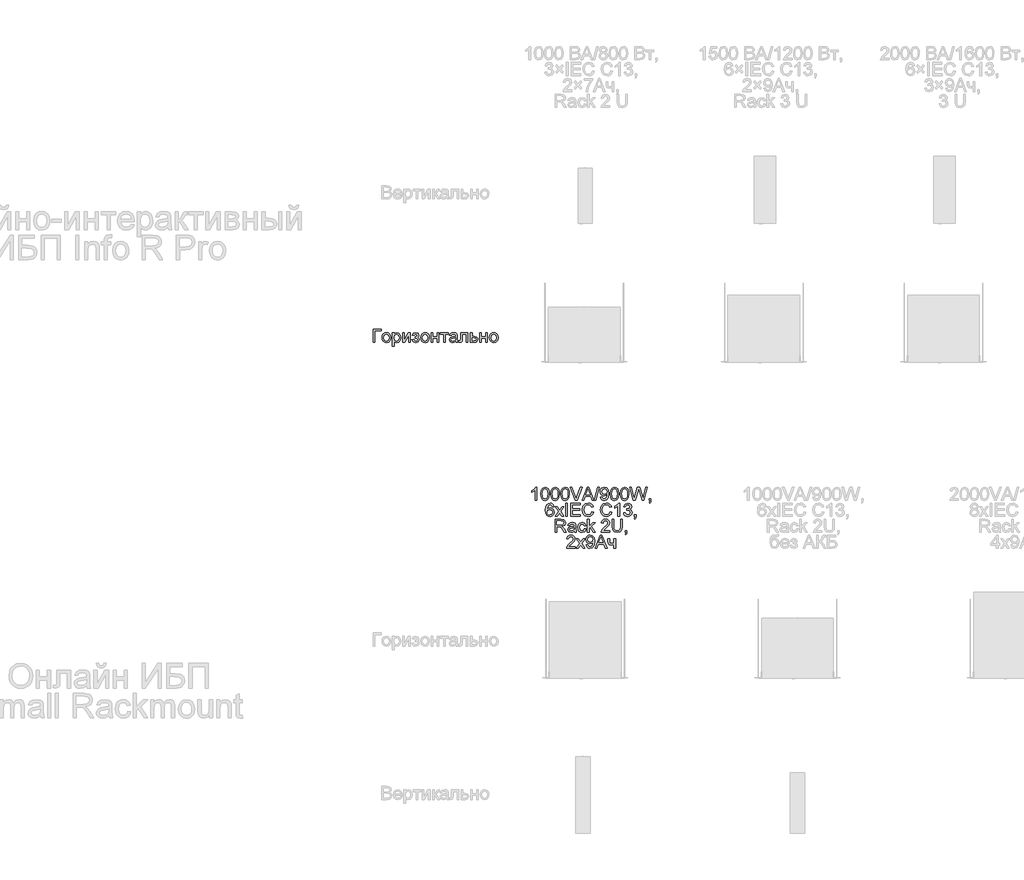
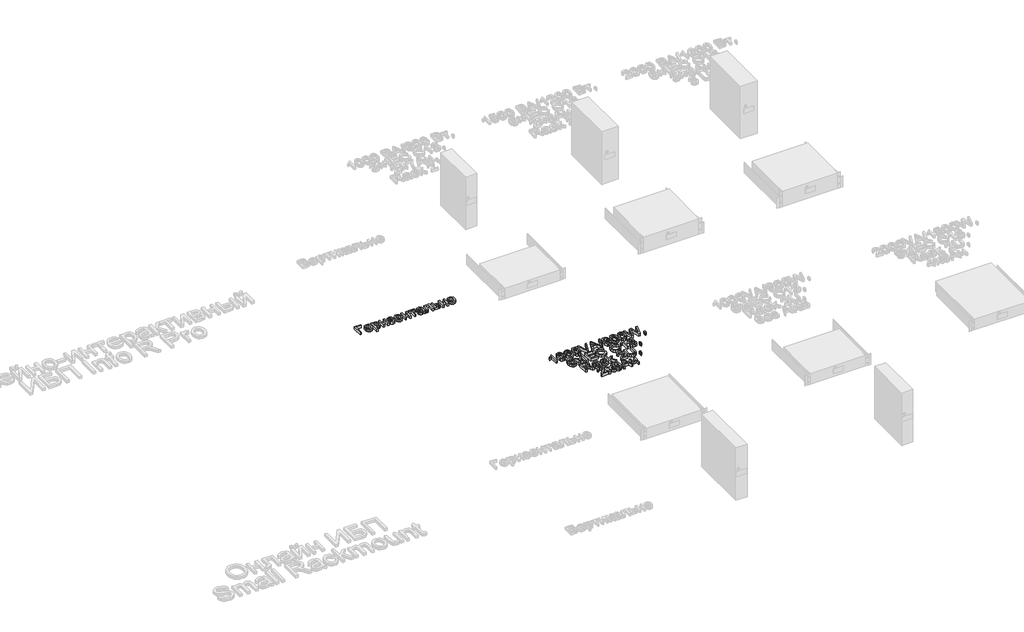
# One storey, part 65 of 74: 2 proxies.
"""IFC4 building model written with IfcOpenShell, lengths in millimetres."""

from ifc_helpers import new_model, si_unit, origin, origin_with_axes, place, context, project, spatial, polyline, outline, extrude, element, save

model = new_model("IFC4")

# Units and contexts
model_context = context("Model", 3, world=origin())
ifc_project = project(units=[si_unit("LENGTHUNIT", "METRE", prefix="MILLI")], contexts=[model_context])

# Site, building, storey
site = spatial("IfcSite", under=ifc_project)
building = spatial("IfcBuilding", under=site)
storey = spatial("IfcBuildingStorey", under=building, Name="Этаж 01", Elevation=0.0)

# Proxies
placement = place(None, origin())
element("IfcBuildingElementProxy", 1, Name="80 мм Arial", ObjectType="80 мм Arial", at=placement, inside=storey, context=model_context, shape_type="SweptSolid", body=[
    extrude(outline(polyline([(52.7313094, 3310.3120859), (102.9594644, 3310.3120859), (102.9594644, 3300.2664549), (62.7769404, 3300.2664549), (62.7769404, 3229.9470378), (52.7313094, 3229.9470378), (52.7313094, 3310.3120859)])), origin_with_axes(), (0.0, 0.0, 1.0), 20.0),
    extrude(outline(polyline([(107.9822799, 3259.4560789), (110.1552363, 3273.6857545), (116.6741052, 3283.6872397), (124.7282684, 3288.5874279), (134.3716817, 3290.2208239), (144.9249899, 3288.2318086), (153.3543927, 3282.2647626), (158.8799802, 3272.790575), (160.7218428, 3260.2801346), (157.4648608, 3242.4059747), (147.9784105, 3232.2916724), (134.3716817, 3228.6913339), (123.6908411, 3230.6729916), (115.2712485, 3236.6179647), (109.8045221, 3246.2908086), (107.9822799, 3259.4560789)]), holes=[polyline([(118.027911, 3259.4756993), (122.6779394, 3243.9069333), (134.3716817, 3238.736965), (146.0261833, 3243.9363638), (150.6762117, 3259.7896253), (145.9967528, 3275.0052246), (134.3716817, 3280.1751929), (122.6779394, 3275.024845), (118.027911, 3259.4756993)])]), origin_with_axes(), (0.0, 0.0, 1.0), 20.0),
    extrude(outline(polyline([(172.0231777, 3207.344368), (172.0231777, 3288.96512), (182.0688087, 3288.96512), (182.0688087, 3279.1156928), (189.0144207, 3287.4445411), (198.3929591, 3290.2208239), (211.1265812, 3286.33599), (219.4456194, 3275.3878219), (222.2513327, 3259.9073475), (219.0826425, 3243.632248), (209.8806875, 3232.5467373), (197.1764959, 3228.6913339), (188.4356197, 3231.271413), (182.0688087, 3237.7951871), (182.0688087, 3207.344368), (172.0231777, 3207.344368)]), holes=[polyline([(182.0688087, 3258.98519), (186.4147213, 3243.681299), (196.9606718, 3238.736965), (207.7224465, 3243.8578823), (212.2057017, 3259.7307642), (207.8303585, 3275.0738959), (197.3726997, 3280.1751929), (186.7090269, 3274.7501597), (182.0688087, 3258.98519)])]), origin_with_axes(), (0.0, 0.0, 1.0), 20.0),
    extrude(outline(polyline([(233.5526676, 3288.96512), (243.5982986, 3288.96512), (243.5982986, 3243.9559842), (268.280728, 3288.96512), (281.2694149, 3288.96512), (281.2694149, 3229.9470378), (271.2237839, 3229.9470378), (271.2237839, 3274.6814884), (246.6983176, 3229.9470378), (233.5526676, 3229.9470378), (233.5526676, 3288.96512)])), origin_with_axes(), (0.0, 0.0, 1.0), 20.0),
    extrude(outline(polyline([(310.1506041, 3256.3168192), (310.1506041, 3266.3624503), (318.0772348, 3266.7548577), (322.0797909, 3268.8444274), (323.9633468, 3273.2099605), (321.4421288, 3278.2818269), (314.9379751, 3280.1751929), (308.2179974, 3278.2916371), (303.8720847, 3272.6409696), (292.5707498, 3273.8966735), (300.1245935, 3286.1397863), (313.9177157, 3290.2208239), (328.6722363, 3285.2470593), (334.0089778, 3273.3669234), (332.1107067, 3267.1276448), (326.4158934, 3262.301033), (333.0573897, 3256.042134), (335.2646816, 3247.0363828), (333.8642775, 3239.6419547), (329.6630651, 3233.7828208), (313.9961972, 3228.6913339), (298.5451534, 3233.4002235), (291.315046, 3247.5268921), (302.6163809, 3248.782596), (307.148687, 3241.366095), (314.9575955, 3238.736965), (322.295615, 3241.2581829), (325.2190506, 3247.7034755), (323.4041661, 3252.9813558), (319.5389526, 3255.8066895), (312.1126414, 3256.3756804), (310.1506041, 3256.3168192)])), origin_with_axes(), (0.0, 0.0, 1.0), 20.0),
    extrude(outline(polyline([(345.3103127, 3259.4560789), (347.483269, 3273.6857545), (354.0021379, 3283.6872397), (362.0563011, 3288.5874279), (371.6997145, 3290.2208239), (382.2530226, 3288.2318086), (390.6824254, 3282.2647626), (396.208013, 3272.790575), (398.0498755, 3260.2801346), (394.7928936, 3242.4059747), (385.3064432, 3232.2916724), (371.6997145, 3228.6913339), (361.0188739, 3230.6729916), (352.5992813, 3236.6179647), (347.1325548, 3246.2908086), (345.3103127, 3259.4560789)]), holes=[polyline([(355.3559437, 3259.4756993), (360.0059721, 3243.9069333), (371.6997145, 3238.736965), (383.3542161, 3243.9363638), (388.0042445, 3259.7896253), (383.3247855, 3275.0052246), (371.6997145, 3280.1751929), (360.0059721, 3275.024845), (355.3559437, 3259.4756993)])]), origin_with_axes(), (0.0, 0.0, 1.0), 20.0),
    extrude(outline(polyline([(409.3512104, 3288.96512), (419.3968414, 3288.96512), (419.3968414, 3266.3624503), (445.7666228, 3266.3624503), (445.7666228, 3288.96512), (455.8122538, 3288.96512), (455.8122538, 3229.9470378), (445.7666228, 3229.9470378), (445.7666228, 3256.3168192), (419.3968414, 3256.3168192), (419.3968414, 3229.9470378), (409.3512104, 3229.9470378), (409.3512104, 3288.96512)])), origin_with_axes(), (0.0, 0.0, 1.0), 20.0),
    extrude(outline(polyline([(465.8578848, 3288.96512), (513.5746322, 3288.96512), (513.5746322, 3278.919489), (494.739074, 3278.919489), (494.739074, 3229.9470378), (484.693443, 3229.9470378), (484.693443, 3278.919489), (465.8578848, 3278.919489), (465.8578848, 3288.96512)])), origin_with_axes(), (0.0, 0.0, 1.0), 20.0),
    extrude(outline(polyline([(560.0356756, 3237.4812611), (550.2941604, 3230.6729916), (539.5323857, 3228.6913339), (524.9446384, 3233.4590846), (519.8531515, 3245.6433363), (521.7759481, 3253.5895874), (526.8281942, 3259.3579771), (533.8620979, 3262.6541997), (542.5539232, 3264.1649685), (559.9768145, 3267.6181541), (560.0356756, 3269.8548767), (557.269203, 3277.2713777), (546.1640718, 3280.1751929), (536.0007186, 3278.2425862), (531.1544864, 3271.3852658), (521.1088554, 3272.6409696), (525.4547681, 3282.4511562), (534.2054545, 3288.1999255), (547.4590165, 3290.2208239), (559.633458, 3288.43537), (566.5103987, 3283.9521147), (569.5907973, 3277.1340351), (570.0813066, 3268.3441079), (570.0813066, 3255.8459303), (570.5914363, 3238.3936084), (572.5927144, 3229.9470378), (562.5470834, 3229.9470378), (560.0356756, 3237.4812611)]), holes=[polyline([(560.0356756, 3257.5725231), (543.8292474, 3254.4921245), (535.1864731, 3252.8636336), (531.2722087, 3250.2148832), (529.8987826, 3246.3496697), (532.8908895, 3240.9148264), (541.6710064, 3238.736965), (551.8343597, 3241.1404607), (558.3875643, 3246.9579013), (559.9768145, 3254.727569), (560.0356756, 3257.5725231)])]), origin_with_axes(), (0.0, 0.0, 1.0), 20.0),
    extrude(outline(polyline([(588.9168648, 3288.96512), (634.1222043, 3288.96512), (634.1222043, 3230.0058989), (624.0765733, 3230.0058989), (624.0765733, 3278.919489), (598.9624958, 3278.919489), (598.9624958, 3250.7642537), (598.2855929, 3237.7755667), (594.5675322, 3232.2916724), (585.7776051, 3229.9470378), (577.6155299, 3230.4571675), (577.6155299, 3239.9926688), (582.1085953, 3239.9926688), (586.6507117, 3240.6107106), (588.4655962, 3242.5727479), (588.9168648, 3251.3332445), (588.9168648, 3288.96512)])), origin_with_axes(), (0.0, 0.0, 1.0), 20.0),
    extrude(outline(polyline([(649.1906509, 3288.96512), (659.2362819, 3288.96512), (659.2362819, 3267.6181541), (670.812302, 3267.6181541), (688.274434, 3262.5855284), (692.8656013, 3256.5988621), (694.3959904, 3248.7041145), (689.1867814, 3235.4505525), (682.4153001, 3231.3229165), (672.5192745, 3229.9470378), (649.1906509, 3229.9470378), (649.1906509, 3288.96512)]), holes=[polyline([(659.2362819, 3239.9926688), (668.6148202, 3239.9926688), (680.7304006, 3242.1018589), (684.3503594, 3248.6844941), (681.6721785, 3254.8649116), (669.811663, 3257.5725231), (659.2362819, 3257.5725231), (659.2362819, 3239.9926688)])]), origin_with_axes(), (0.0, 0.0, 1.0), 20.0),
    extrude(outline(polyline([(706.9530292, 3288.96512), (716.9986602, 3288.96512), (716.9986602, 3266.3624503), (743.3684416, 3266.3624503), (743.3684416, 3288.96512), (753.4140726, 3288.96512), (753.4140726, 3229.9470378), (743.3684416, 3229.9470378), (743.3684416, 3256.3168192), (716.9986602, 3256.3168192), (716.9986602, 3229.9470378), (706.9530292, 3229.9470378), (706.9530292, 3288.96512)])), origin_with_axes(), (0.0, 0.0, 1.0), 20.0),
    extrude(outline(polyline([(765.9711114, 3259.4560789), (768.1440677, 3273.6857545), (774.6629367, 3283.6872397), (782.7170998, 3288.5874279), (792.3605132, 3290.2208239), (802.9138214, 3288.2318086), (811.3432242, 3282.2647626), (816.8688117, 3272.790575), (818.7106742, 3260.2801346), (815.4536923, 3242.4059747), (805.9672419, 3232.2916724), (792.3605132, 3228.6913339), (781.6796726, 3230.6729916), (773.26008, 3236.6179647), (767.7933536, 3246.2908086), (765.9711114, 3259.4560789)]), holes=[polyline([(776.0167424, 3259.4756993), (780.6667708, 3243.9069333), (792.3605132, 3238.736965), (804.0150148, 3243.9363638), (808.6650432, 3259.7896253), (803.9855843, 3275.0052246), (792.3605132, 3280.1751929), (780.6667708, 3275.024845), (776.0167424, 3259.4756993)])]), origin_with_axes(), (0.0, 0.0, 1.0), 20.0),
])
element("IfcBuildingElementProxy", 2, Name="80 мм Arial", ObjectType="80 мм Arial", at=placement, inside=storey, context=model_context, shape_type="SweptSolid", body=[
    extrude(outline(polyline([(1056.0651374, 2262.3651415), (1046.0195064, 2262.3651415), (1046.0195064, 2324.9933724), (1036.5036255, 2318.2145335), (1025.9282444, 2313.142667), (1025.9282444, 2322.6389276), (1040.6533344, 2332.0370863), (1049.5904143, 2342.7301896), (1056.0651374, 2342.7301896), (1056.0651374, 2262.3651415)])), origin_with_axes(), (0.0, 0.0, 1.0), 20.0),
    extrude(outline(polyline([(1079.9235111, 2301.9001933), (1082.8763772, 2325.0228029), (1091.646684, 2338.3548465), (1106.2932925, 2342.7301896), (1118.0262756, 2340.1403004), (1126.1294897, 2332.6747484), (1130.8383792, 2320.7848024), (1132.6630739, 2301.9001933), (1129.7396383, 2278.8756855), (1120.9987621, 2265.5142114), (1106.2932925, 2261.1094377), (1095.855254, 2263.022424), (1087.9286233, 2268.7613832), (1081.9247891, 2282.3533966), (1079.9235111, 2301.9001933)]), holes=[polyline([(1089.9691421, 2301.9198136), (1091.1463645, 2286.1180557), (1094.6780316, 2276.9725093), (1106.2932925, 2271.1550687), (1117.9085534, 2276.9921297), (1121.4402205, 2286.1425811), (1122.6174429, 2301.9198136), (1121.4794613, 2317.3659524), (1118.0655163, 2326.5826226), (1112.8170665, 2331.1590746), (1106.1755703, 2332.6845586), (1094.8349946, 2327.3085764), (1091.1856052, 2317.5180102), (1089.9691421, 2301.9198136)])]), origin_with_axes(), (0.0, 0.0, 1.0), 20.0),
    extrude(outline(polyline([(1141.453001, 2301.9001933), (1144.4058672, 2325.0228029), (1153.176174, 2338.3548465), (1167.8227825, 2342.7301896), (1179.5557656, 2340.1403004), (1187.6589796, 2332.6747484), (1192.3678692, 2320.7848024), (1194.1925639, 2301.9001933), (1191.2691283, 2278.8756855), (1182.5282521, 2265.5142114), (1167.8227825, 2261.1094377), (1157.384744, 2263.022424), (1149.4581133, 2268.7613832), (1143.4542791, 2282.3533966), (1141.453001, 2301.9001933)]), holes=[polyline([(1151.4986321, 2301.9198136), (1152.6758544, 2286.1180557), (1156.2075216, 2276.9725093), (1167.8227825, 2271.1550687), (1179.4380433, 2276.9921297), (1182.9697105, 2286.1425811), (1184.1469329, 2301.9198136), (1183.0089512, 2317.3659524), (1179.5950063, 2326.5826226), (1174.3465565, 2331.1590746), (1167.7050602, 2332.6845586), (1156.3644846, 2327.3085764), (1152.7150952, 2317.5180102), (1151.4986321, 2301.9198136)])]), origin_with_axes(), (0.0, 0.0, 1.0), 20.0),
    extrude(outline(polyline([(1202.982491, 2301.9001933), (1205.9353572, 2325.0228029), (1214.7056639, 2338.3548465), (1229.3522724, 2342.7301896), (1241.0852555, 2340.1403004), (1249.1884696, 2332.6747484), (1253.8973591, 2320.7848024), (1255.7220538, 2301.9001933), (1252.7986183, 2278.8756855), (1244.0577421, 2265.5142114), (1229.3522724, 2261.1094377), (1218.914234, 2263.022424), (1210.9876032, 2268.7613832), (1204.9837691, 2282.3533966), (1202.982491, 2301.9001933)]), holes=[polyline([(1213.028122, 2301.9198136), (1214.2053444, 2286.1180557), (1217.7370116, 2276.9725093), (1229.3522724, 2271.1550687), (1240.9675333, 2276.9921297), (1244.4992004, 2286.1425811), (1245.6764228, 2301.9198136), (1244.5384412, 2317.3659524), (1241.1244963, 2326.5826226), (1235.8760465, 2331.1590746), (1229.2345502, 2332.6845586), (1217.8939746, 2327.3085764), (1214.2445852, 2317.5180102), (1213.028122, 2301.9198136)])]), origin_with_axes(), (0.0, 0.0, 1.0), 20.0),
    extrude(outline(polyline([(1292.019744, 2262.3651415), (1260.0385359, 2342.7301896), (1270.7905004, 2342.7301896), (1292.1963274, 2284.8304687), (1296.5324298, 2271.7829206), (1300.8096712, 2284.8304687), (1322.2743593, 2342.7301896), (1333.0263238, 2342.7301896), (1302.3989214, 2262.3651415), (1292.019744, 2262.3651415)])), origin_with_axes(), (0.0, 0.0, 1.0), 20.0),
    extrude(outline(polyline([(1333.0067034, 2262.3651415), (1365.0860134, 2342.7301896), (1373.640496, 2342.7301896), (1405.719806, 2262.3651415), (1395.1051842, 2262.3651415), (1385.9032292, 2287.4792191), (1352.8036598, 2287.4792191), (1343.6213252, 2262.3651415), (1333.0067034, 2262.3651415)]), holes=[polyline([(1356.49229, 2297.5248501), (1382.2342194, 2297.5248501), (1374.9943018, 2317.2825658), (1369.3632547, 2332.6845586), (1364.3600596, 2319.0091586), (1356.49229, 2297.5248501)])]), origin_with_axes(), (0.0, 0.0, 1.0), 20.0),
    extrude(outline(polyline([(1407.6622229, 2262.3651415), (1430.2648927, 2342.7301896), (1439.3295051, 2342.7301896), (1416.7268353, 2262.3651415), (1407.6622229, 2262.3651415)])), origin_with_axes(), (0.0, 0.0, 1.0), 20.0),
    extrude(outline(polyline([(1445.3333393, 2282.4564036), (1455.3789703, 2283.7121074), (1459.8916561, 2274.1275552), (1468.4461387, 2271.1550687), (1476.5787834, 2273.068055), (1482.0921082, 2278.1791622), (1485.3785207, 2286.9102282), (1486.8304283, 2298.5647299), (1486.7715672, 2300.5267672), (1478.7370244, 2292.9140624), (1467.7201849, 2289.9906268), (1458.5599233, 2291.7760808), (1450.9349558, 2297.1324426), (1445.7919655, 2305.407335), (1444.0776354, 2315.9483804), (1445.8753521, 2326.8376875), (1451.2685021, 2335.3725497), (1459.3692636, 2340.8907797), (1469.2898148, 2342.7301896), (1483.6028769, 2338.5314298), (1493.4523042, 2326.5630022), (1496.8171982, 2304.0780547), (1493.4621144, 2279.6801208), (1483.4851547, 2265.8575679), (1467.9752498, 2261.1094377), (1459.3864315, 2262.5098418), (1452.5340162, 2266.7110542), (1445.3333393, 2282.4564036)]), holes=[polyline([(1486.7715672, 2316.1838249), (1482.4354647, 2328.2307339), (1470.9183057, 2332.6845586), (1458.8321559, 2327.8873774), (1454.1232664, 2315.4578711), (1458.5770911, 2304.3233094), (1470.6436205, 2300.0362578), (1482.2294508, 2304.3233094), (1486.7715672, 2316.1838249)])]), origin_with_axes(), (0.0, 0.0, 1.0), 20.0),
    extrude(outline(polyline([(1505.6071253, 2301.9001933), (1508.5599915, 2325.0228029), (1517.3302983, 2338.3548465), (1531.9769068, 2342.7301896), (1543.7098899, 2340.1403004), (1551.8131039, 2332.6747484), (1556.5219935, 2320.7848024), (1558.3466882, 2301.9001933), (1555.4232526, 2278.8756855), (1546.6823764, 2265.5142114), (1531.9769068, 2261.1094377), (1521.5388683, 2263.022424), (1513.6122376, 2268.7613832), (1507.6084034, 2282.3533966), (1505.6071253, 2301.9001933)]), holes=[polyline([(1515.6527564, 2301.9198136), (1516.8299787, 2286.1180557), (1520.3616459, 2276.9725093), (1531.9769068, 2271.1550687), (1543.5921676, 2276.9921297), (1547.1238348, 2286.1425811), (1548.3010572, 2301.9198136), (1547.1630755, 2317.3659524), (1543.7491306, 2326.5826226), (1538.5006808, 2331.1590746), (1531.8591845, 2332.6845586), (1520.5186089, 2327.3085764), (1516.8692195, 2317.5180102), (1515.6527564, 2301.9198136)])]), origin_with_axes(), (0.0, 0.0, 1.0), 20.0),
    extrude(outline(polyline([(1567.1366153, 2301.9001933), (1570.0894815, 2325.0228029), (1578.8597882, 2338.3548465), (1593.5063967, 2342.7301896), (1605.2393798, 2340.1403004), (1613.3425939, 2332.6747484), (1618.0514834, 2320.7848024), (1619.8761781, 2301.9001933), (1616.9527425, 2278.8756855), (1608.2118663, 2265.5142114), (1593.5063967, 2261.1094377), (1583.0683582, 2263.022424), (1575.1417275, 2268.7613832), (1569.1378934, 2282.3533966), (1567.1366153, 2301.9001933)]), holes=[polyline([(1577.1822463, 2301.9198136), (1578.3594687, 2286.1180557), (1581.8911359, 2276.9725093), (1593.5063967, 2271.1550687), (1605.1216576, 2276.9921297), (1608.6533247, 2286.1425811), (1609.8305471, 2301.9198136), (1608.6925655, 2317.3659524), (1605.2786206, 2326.5826226), (1600.0301708, 2331.1590746), (1593.3886745, 2332.6845586), (1582.0480988, 2327.3085764), (1578.3987095, 2317.5180102), (1577.1822463, 2301.9198136)])]), origin_with_axes(), (0.0, 0.0, 1.0), 20.0),
    extrude(outline(polyline([(1646.8149504, 2262.3651415), (1624.8989936, 2342.7301896), (1635.2585506, 2342.7301896), (1647.9725524, 2289.9121453), (1651.896627, 2273.6076153), (1656.0953868, 2288.0285895), (1672.0271298, 2342.7301896), (1686.9582337, 2342.7301896), (1698.5342538, 2303.0774157), (1707.1475976, 2273.6076153), (1710.95395, 2289.4412564), (1723.7856739, 2342.7301896), (1734.1452309, 2342.7301896), (1712.2096538, 2262.3651415), (1701.4773098, 2262.3651415), (1682.2101034, 2324.3655204), (1679.5221123, 2333.018105), (1676.5005748, 2322.5996869), (1658.9403409, 2262.3651415), (1646.8149504, 2262.3651415)])), origin_with_axes(), (0.0, 0.0, 1.0), 20.0),
    extrude(outline(polyline([(1745.4465658, 2262.3651415), (1745.4465658, 2272.4107725), (1755.4921968, 2272.4107725), (1755.4921968, 2262.3651415), (1753.6871225, 2252.0938762), (1747.9579736, 2246.0409911), (1745.4465658, 2249.8081028), (1749.135196, 2254.1442052), (1750.449761, 2262.3651415), (1745.4465658, 2262.3651415)])), origin_with_axes(), (0.0, 0.0, 1.0), 20.0),
    extrude(outline(polyline([(1161.5442631, 2223.8033695), (1151.4986321, 2222.5476656), (1147.6922797, 2230.9255649), (1137.6270283, 2235.1047044), (1128.5624159, 2232.6717781), (1121.7050955, 2223.5384944), (1118.8503313, 2205.634904), (1127.7089297, 2213.6498264), (1138.6865284, 2216.2691462), (1147.9669649, 2214.4787872), (1155.756253, 2209.10771), (1161.0390385, 2200.901489), (1162.799967, 2190.6056982), (1159.4841239, 2176.7439046), (1150.3606504, 2166.9337181), (1137.1953801, 2163.5295834), (1125.7983959, 2165.7859263), (1116.7215208, 2172.554955), (1110.7839054, 2184.5037622), (1108.8047003, 2202.2994406), (1111.002182, 2222.307316), (1117.5946274, 2235.9876211), (1126.5954735, 2242.8596568), (1138.2548802, 2245.1503354), (1147.0693328, 2243.7327634), (1154.1277621, 2239.4800476), (1161.5442631, 2223.8033695)]), holes=[polyline([(1118.8503313, 2190.7626612), (1121.1753455, 2182.0610257), (1127.355763, 2175.7432656), (1136.4105652, 2173.5752144), (1148.2514603, 2178.0682798), (1152.7543359, 2190.2721519), (1148.3103214, 2201.956084), (1135.9985373, 2206.2235152), (1123.8437162, 2201.956084), (1118.8503313, 2190.7626612)])]), origin_with_axes(), (0.0, 0.0, 1.0), 20.0),
    extrude(outline(polyline([(1167.8227825, 2164.7852873), (1189.2874706, 2194.4512913), (1169.0784863, 2223.8033695), (1181.1646362, 2223.8033695), (1190.9159616, 2209.6767009), (1195.4678881, 2203.005774), (1199.4115831, 2208.4602377), (1210.5167143, 2223.8033695), (1222.6028641, 2223.8033695), (1201.3736204, 2194.4512913), (1221.8180492, 2164.7852873), (1209.7318994, 2164.7852873), (1197.4299254, 2182.6202064), (1195.1735825, 2185.8771883), (1179.9089323, 2164.7852873), (1167.8227825, 2164.7852873)])), origin_with_axes(), (0.0, 0.0, 1.0), 20.0),
    extrude(outline(polyline([(1233.1193841, 2164.7852873), (1233.1193841, 2245.1503354), (1243.1650151, 2245.1503354), (1243.1650151, 2164.7852873), (1233.1193841, 2164.7852873)])), origin_with_axes(), (0.0, 0.0, 1.0), 20.0),
    extrude(outline(polyline([(1263.2562771, 2164.7852873), (1263.2562771, 2245.1503354), (1321.0186554, 2245.1503354), (1321.0186554, 2235.1047044), (1273.3019081, 2235.1047044), (1273.3019081, 2211.2463307), (1318.5072477, 2211.2463307), (1318.5072477, 2201.2006997), (1273.3019081, 2201.2006997), (1273.3019081, 2174.8309183), (1322.2743593, 2174.8309183), (1322.2743593, 2164.7852873), (1263.2562771, 2164.7852873)])), origin_with_axes(), (0.0, 0.0, 1.0), 20.0),
    extrude(outline(polyline([(1393.8494803, 2193.3525505), (1403.8951113, 2190.7626612), (1399.2597982, 2179.0566561), (1391.9855449, 2170.504626), (1382.4304232, 2165.273344), (1370.9525049, 2163.5295834), (1350.0469974, 2168.8074637), (1337.7842642, 2184.0917344), (1333.5756942, 2205.5760429), (1338.3336347, 2227.4135181), (1351.8618819, 2241.5696173), (1371.168329, 2246.4060392), (1382.182716, 2244.8413145), (1391.2890216, 2240.1471402), (1398.2027506, 2232.612917), (1402.6394074, 2222.5280452), (1392.5937764, 2220.1343597), (1384.3532197, 2232.4853846), (1370.7759216, 2236.3604082), (1355.0600027, 2232.0635465), (1346.1817839, 2220.5267672), (1343.6213252, 2205.5956633), (1346.6526729, 2188.2904942), (1356.0900723, 2177.234414), (1369.9518659, 2173.5752144), (1385.3244282, 2178.5587892), (1393.8494803, 2193.3525505)])), origin_with_axes(), (0.0, 0.0, 1.0), 20.0),
    extrude(outline(polyline([(1505.6071253, 2193.3525505), (1515.6527564, 2190.7626612), (1511.0174432, 2179.0566561), (1503.7431899, 2170.504626), (1494.1880682, 2165.273344), (1482.71015, 2163.5295834), (1461.8046424, 2168.8074637), (1449.5419093, 2184.0917344), (1445.3333393, 2205.5760429), (1450.0912797, 2227.4135181), (1463.619527, 2241.5696173), (1482.9259741, 2246.4060392), (1493.940361, 2244.8413145), (1503.0466667, 2240.1471402), (1509.9603956, 2232.612917), (1514.3970525, 2222.5280452), (1504.3514215, 2220.1343597), (1496.1108648, 2232.4853846), (1482.5335666, 2236.3604082), (1466.8176478, 2232.0635465), (1457.939429, 2220.5267672), (1455.3789703, 2205.5956633), (1458.4103179, 2188.2904942), (1467.8477174, 2177.234414), (1481.7095109, 2173.5752144), (1497.0820732, 2178.5587892), (1505.6071253, 2193.3525505)])), origin_with_axes(), (0.0, 0.0, 1.0), 20.0),
    extrude(outline(polyline([(1563.3695037, 2164.7852873), (1553.3238727, 2164.7852873), (1553.3238727, 2227.4135181), (1543.8079917, 2220.6346792), (1533.2326106, 2215.5628128), (1533.2326106, 2225.0590733), (1547.9577006, 2234.457232), (1556.8947806, 2245.1503354), (1563.3695037, 2245.1503354), (1563.3695037, 2164.7852873)])), origin_with_axes(), (0.0, 0.0, 1.0), 20.0),
    extrude(outline(polyline([(1587.2278773, 2186.1322532), (1597.2735084, 2187.387957), (1602.8162637, 2176.8125759), (1613.1856309, 2173.5752144), (1625.389503, 2178.0290391), (1629.9218092, 2189.0556887), (1625.4287437, 2199.4446763), (1614.0096866, 2203.5551445), (1606.9659727, 2202.4564036), (1608.0843339, 2212.5020346), (1609.6932045, 2212.3843123), (1621.0926413, 2215.2685072), (1626.1546975, 2224.1369158), (1622.4856878, 2231.9948752), (1613.0286679, 2235.1047044), (1603.4539259, 2231.9654447), (1598.5292122, 2222.5476656), (1588.4835812, 2223.8033695), (1596.7045175, 2239.558529), (1612.6755012, 2245.1503354), (1624.7910816, 2242.393673), (1633.2670828, 2234.8594497), (1636.2003285, 2224.725527), (1633.4142356, 2215.4647109), (1625.1736789, 2208.8134044), (1636.121847, 2201.9462739), (1639.9674402, 2188.8791054), (1638.0446436, 2179.0885392), (1632.2762539, 2170.9068437), (1623.5697134, 2165.3738984), (1612.8324642, 2163.5295834), (1603.1203795, 2165.1041183), (1595.2133692, 2169.8277231), (1589.7147596, 2177.0529255), (1587.2278773, 2186.1322532)])), origin_with_axes(), (0.0, 0.0, 1.0), 20.0),
    extrude(outline(polyline([(1653.7801828, 2164.7852873), (1653.7801828, 2174.8309183), (1663.8258138, 2174.8309183), (1663.8258138, 2164.7852873), (1662.0207395, 2154.5140219), (1656.2915906, 2148.4611369), (1653.7801828, 2152.2282485), (1657.468813, 2156.5643509), (1658.7833779, 2164.7852873), (1653.7801828, 2164.7852873)])), origin_with_axes(), (0.0, 0.0, 1.0), 20.0),
    extrude(outline(polyline([(1169.0784863, 2067.205433), (1169.0784863, 2147.5704811), (1203.7084448, 2147.5704811), (1219.7873406, 2145.4024299), (1228.5772677, 2137.730864), (1231.8636802, 2125.5760429), (1226.4190267, 2111.0962075), (1209.5945567, 2103.6208454), (1215.3040853, 2099.3239837), (1223.4465401, 2088.9840471), (1236.8472549, 2067.205433), (1225.173133, 2067.205433), (1214.7154741, 2083.8631297), (1207.1616305, 2094.8897794), (1201.8543196, 2100.0989884), (1197.0767587, 2102.0119748), (1191.2495079, 2102.3651415), (1179.1241174, 2102.3651415), (1179.1241174, 2067.205433), (1169.0784863, 2067.205433)]), holes=[polyline([(1179.1241174, 2112.4107725), (1201.6090649, 2112.4107725), (1213.077173, 2113.8332496), (1219.5911368, 2118.3851761), (1221.8180492, 2125.2032558), (1217.5702384, 2134.052044), (1204.140093, 2137.5248501), (1179.1241174, 2137.5248501), (1179.1241174, 2112.4107725)])]), origin_with_axes(), (0.0, 0.0, 1.0), 20.0),
    extrude(outline(polyline([(1285.8589469, 2074.7396562), (1276.1174317, 2067.9313868), (1265.355657, 2065.9497291), (1250.7679096, 2070.7174798), (1245.6764228, 2082.9017314), (1247.5992194, 2090.8479825), (1252.6514655, 2096.6163722), (1259.6853692, 2099.9125949), (1268.3771945, 2101.4233636), (1285.8000858, 2104.8765493), (1285.8589469, 2107.1132718), (1283.0924743, 2114.5297728), (1271.9873431, 2117.4335881), (1261.8239899, 2115.5009813), (1256.9777577, 2108.6436609), (1246.9321267, 2109.8993648), (1251.2780393, 2119.7095513), (1260.0287257, 2125.4583206), (1273.2822877, 2127.4792191), (1285.4567292, 2125.6937651), (1292.33367, 2121.2105099), (1295.4140686, 2114.3924302), (1295.9045779, 2105.6025031), (1295.9045779, 2093.1043254), (1296.4147076, 2075.6520036), (1298.4159857, 2067.205433), (1288.3703546, 2067.205433), (1285.8589469, 2074.7396562)]), holes=[polyline([(1285.8589469, 2094.8309183), (1269.6525187, 2091.7505197), (1261.0097444, 2090.1220287), (1257.09548, 2087.4732784), (1255.7220538, 2083.6080649), (1258.7141607, 2078.1732215), (1267.4942777, 2075.9953601), (1277.6576309, 2078.3988558), (1284.2108356, 2084.2162964), (1285.8000858, 2091.9859642), (1285.8589469, 2094.8309183)])]), origin_with_axes(), (0.0, 0.0, 1.0), 20.0),
    extrude(outline(polyline([(1347.3884369, 2088.5523989), (1357.4340679, 2087.296695), (1354.6332596, 2078.3620676), (1349.3700945, 2071.6102067), (1333.4383516, 2065.9497291), (1322.7526059, 2067.9240291), (1314.3967795, 2073.8469293), (1309.0036295, 2083.4584595), (1307.2059128, 2096.49865), (1310.2765012, 2113.1857773), (1319.6354191, 2123.9083112), (1333.301009, 2127.4792191), (1348.5754694, 2122.5741258), (1356.178364, 2108.6436609), (1346.132733, 2107.387957), (1341.4728944, 2114.9123701), (1333.3794905, 2117.4335881), (1321.7347991, 2112.4696337), (1317.2515438, 2096.7733352), (1321.6366972, 2080.9298839), (1333.1048053, 2075.9953601), (1342.5716353, 2079.0757587), (1347.3884369, 2088.5523989)])), origin_with_axes(), (0.0, 0.0, 1.0), 20.0),
    extrude(outline(polyline([(1366.223995, 2067.205433), (1366.223995, 2147.5704811), (1376.269626, 2147.5704811), (1376.269626, 2104.38604), (1398.7938143, 2126.2235152), (1412.6850385, 2126.2235152), (1389.8861649, 2104.1113547), (1413.9407423, 2067.205433), (1402.2077592, 2067.205433), (1382.685488, 2097.1265019), (1376.269626, 2090.9068437), (1376.269626, 2067.205433), (1366.223995, 2067.205433)])), origin_with_axes(), (0.0, 0.0, 1.0), 20.0),
    extrude(outline(polyline([(1503.0957176, 2077.251064), (1503.0957176, 2067.205433), (1450.3561548, 2067.205433), (1451.4352753, 2074.1314247), (1457.5372113, 2084.7950974), (1470.1138704, 2096.4397889), (1487.4582802, 2113.1759671), (1491.7943827, 2124.5557835), (1487.7035349, 2133.7675486), (1477.0202418, 2137.5248501), (1465.88568, 2133.8558403), (1461.6574897, 2123.7121074), (1451.6118586, 2124.9678113), (1454.0472374, 2134.6848011), (1459.3128551, 2141.782471), (1467.1340263, 2146.1234786), (1477.2360659, 2147.5704811), (1487.4116819, 2145.9616105), (1495.2181378, 2141.1349987), (1500.1845447, 2133.9245116), (1501.8400137, 2125.164015), (1500.0545598, 2115.6383239), (1494.1193969, 2105.7888966), (1479.7278533, 2092.0252049), (1468.1714535, 2082.3621712), (1463.6391473, 2077.251064), (1503.0957176, 2077.251064)])), origin_with_axes(), (0.0, 0.0, 1.0), 20.0),
    extrude(outline(polyline([(1569.6480231, 2147.5704811), (1579.6936541, 2147.5704811), (1579.6936541, 2101.2075395), (1576.9664222, 2081.9893841), (1567.1366153, 2070.413364), (1548.4972609, 2065.9497291), (1530.1424019, 2069.834563), (1519.9594282, 2081.0868469), (1516.9084602, 2101.2075395), (1516.9084602, 2147.5704811), (1526.9540912, 2147.5704811), (1526.9540912, 2101.5607062), (1528.9357489, 2086.247005), (1535.7440184, 2078.6637309), (1547.555483, 2075.9953601), (1557.7727923, 2077.3148302), (1564.5663464, 2081.2732405), (1568.3776039, 2088.9840471), (1569.6480231, 2101.5607062), (1569.6480231, 2147.5704811)])), origin_with_axes(), (0.0, 0.0, 1.0), 20.0),
    extrude(outline(polyline([(1598.5292122, 2067.205433), (1598.5292122, 2077.251064), (1608.5748432, 2077.251064), (1608.5748432, 2067.205433), (1606.7697689, 2056.9341677), (1601.04062, 2050.8812826), (1598.5292122, 2054.6483942), (1602.2178424, 2058.9844967), (1603.5324074, 2067.205433), (1598.5292122, 2067.205433)])), origin_with_axes(), (0.0, 0.0, 1.0), 20.0),
    extrude(outline(polyline([(1290.8817624, 1979.6712097), (1290.8817624, 1969.6255787), (1238.1421996, 1969.6255787), (1239.2213201, 1976.5515704), (1245.3232561, 1987.2152432), (1257.8999153, 1998.8599346), (1275.2443251, 2015.5961128), (1279.5804275, 2026.9759292), (1275.4895797, 2036.1876944), (1264.8062866, 2039.9449958), (1253.6717249, 2036.275986), (1249.4435345, 2026.1322532), (1239.3979034, 2027.387957), (1241.8332823, 2037.1049468), (1247.0988999, 2044.2026168), (1254.9200711, 2048.5436243), (1265.0221107, 2049.9906268), (1275.1977267, 2048.3817562), (1283.0041826, 2043.5551445), (1287.9705895, 2036.3446573), (1289.6260585, 2027.5841608), (1287.8406046, 2018.0584696), (1281.9054417, 2008.2090424), (1267.5138981, 1994.4453506), (1255.9574983, 1984.7823169), (1251.4251921, 1979.6712097), (1290.8817624, 1979.6712097)])), origin_with_axes(), (0.0, 0.0, 1.0), 20.0),
    extrude(outline(polyline([(1297.1602818, 1969.6255787), (1318.6249699, 1999.2915828), (1298.4159857, 2028.6436609), (1310.5021355, 2028.6436609), (1320.2534609, 2014.5169923), (1324.8053874, 2007.8460655), (1328.7490824, 2013.3005292), (1339.8542136, 2028.6436609), (1351.9403634, 2028.6436609), (1330.7111197, 1999.2915828), (1351.1555485, 1969.6255787), (1339.0693987, 1969.6255787), (1326.7674248, 1987.4604978), (1324.5110818, 1990.7174798), (1309.2464316, 1969.6255787), (1297.1602818, 1969.6255787)])), origin_with_axes(), (0.0, 0.0, 1.0), 20.0),
    extrude(outline(polyline([(1358.6897717, 1989.7168407), (1368.7354028, 1990.9725446), (1373.2480886, 1981.3879924), (1381.8025712, 1978.4155058), (1389.9352159, 1980.3284922), (1395.4485407, 1985.4395994), (1398.7349532, 1994.1706654), (1400.1868608, 2005.825167), (1400.1279997, 2007.7872043), (1392.0934569, 2000.1744996), (1381.0766174, 1997.251064), (1371.9163557, 1999.0365179), (1364.2913883, 2004.3928798), (1359.148398, 2012.6677721), (1357.4340679, 2023.2088176), (1359.2317846, 2034.0981246), (1364.6249346, 2042.6329869), (1372.7256961, 2048.1512168), (1382.6462473, 2049.9906268), (1396.9593094, 2045.791867), (1406.8087367, 2033.8234394), (1410.1736307, 2011.3384919), (1406.8185469, 1986.9405579), (1396.8415872, 1973.1180051), (1381.3316823, 1968.3698748), (1372.742864, 1969.770279), (1365.8904487, 1973.9714913), (1358.6897717, 1989.7168407)]), holes=[polyline([(1400.1279997, 2023.444262), (1395.7918972, 2035.4911711), (1384.2747382, 2039.9449958), (1372.1885884, 2035.1478146), (1367.4796989, 2022.7183082), (1371.9335236, 2011.5837465), (1384.000053, 2007.296695), (1395.5858833, 2011.5837465), (1400.1279997, 2023.444262)])]), origin_with_axes(), (0.0, 0.0, 1.0), 20.0),
    extrude(outline(polyline([(1413.3717515, 1969.6255787), (1445.4510615, 2049.9906268), (1454.0055442, 2049.9906268), (1486.0848541, 1969.6255787), (1475.4702323, 1969.6255787), (1466.2682773, 1994.7396562), (1433.1687079, 1994.7396562), (1423.9863733, 1969.6255787), (1413.3717515, 1969.6255787)]), holes=[polyline([(1436.8573381, 2004.7852873), (1462.5992676, 2004.7852873), (1455.3593499, 2024.5430029), (1449.7283028, 2039.9449958), (1444.7251077, 2026.2695958), (1436.8573381, 2004.7852873)])]), origin_with_axes(), (0.0, 0.0, 1.0), 20.0),
    extrude(outline(polyline([(1491.7943827, 2028.6436609), (1501.8400137, 2028.6436609), (1501.8400137, 2017.3227056), (1502.6542592, 2006.7080838), (1506.5685236, 2000.9593145), (1514.3381914, 1998.5067679), (1528.2097951, 2001.5479257), (1528.2097951, 2028.6436609), (1538.2554261, 2028.6436609), (1538.2554261, 1969.6255787), (1528.2097951, 1969.6255787), (1528.2097951, 1991.9143225), (1511.6502002, 1988.4611369), (1500.2605737, 1992.0614753), (1493.5602163, 2000.880833), (1491.7943827, 2012.3587513), (1491.7943827, 2028.6436609)])), origin_with_axes(), (0.0, 0.0, 1.0), 20.0),
])

save(model, "model.ifc")
